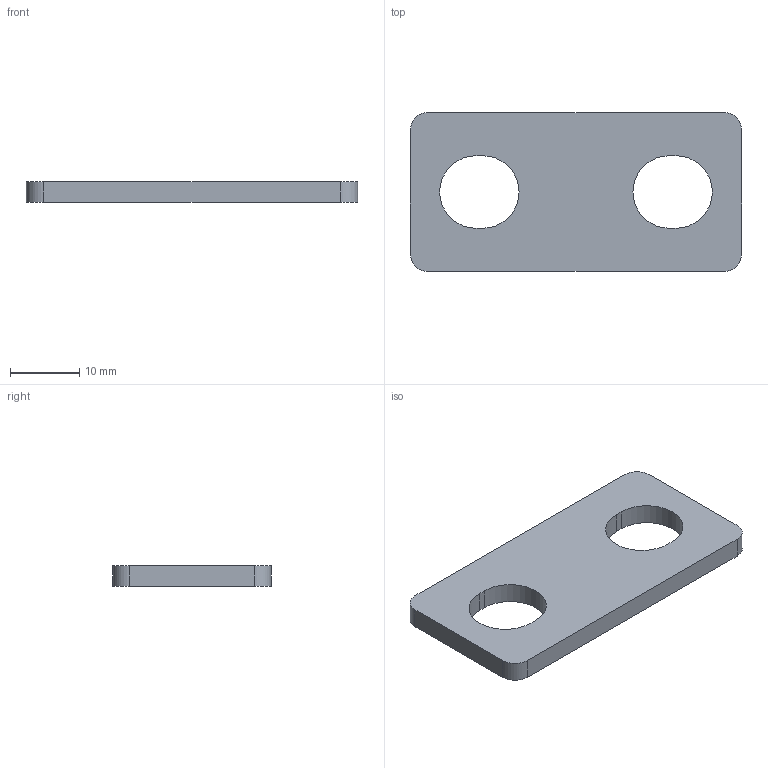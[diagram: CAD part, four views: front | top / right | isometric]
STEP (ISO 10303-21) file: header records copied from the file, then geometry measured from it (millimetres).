
FILE_DESCRIPTION(/* description */ ('STEP AP242','CAx-IF Rec.Pracs.---Representation and Presentation of Product Manufacturing Information (PMI)---4.0---2014-10-13','CAx-IF Rec.Pracs.---3D Tessellated Geometry---0.4---2014-09-14','2;1'),/* implementation_level */ '2;1');
FILE_NAME(/* name */ '628e532adfbd536d343db968',/* time_stamp */ '2022-05-25T16:02:50+00:00',/* author */ (''),/* organization */ (''),/* preprocessor_version */ 'ST-DEVELOPER v18.102',/* originating_system */ ' ',/* authorisation */ ' ');
FILE_SCHEMA (('AP242_MANAGED_MODEL_BASED_3D_ENGINEERING_MIM_LF { 1 0 10303 442 1 1 4 }'));
Length unit declared in the file: metre
Products named in the file (1): 901702 - Link Bus
Bounding box: 48 x 23 x 3 mm (x, y, z)
Volume: 2713.4 mm3; surface area: 2432 mm2
Topology: 1 solids, 1 shells, 18 faces, 48 edges, 32 vertices
Faces by surface type: plane 10, cylinder 8
Entity records: 598 total; most frequent: DIRECTION 102, CARTESIAN_POINT 99, ORIENTED_EDGE 96, EDGE_CURVE 48, AXIS2_PLACEMENT_3D 35, VERTEX_POINT 32, LINE 32, VECTOR 32
